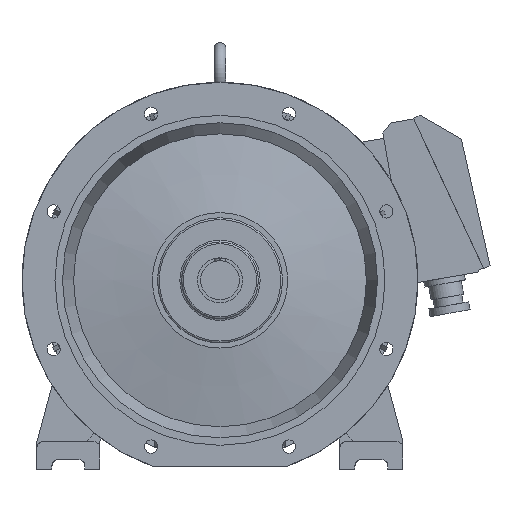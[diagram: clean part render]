
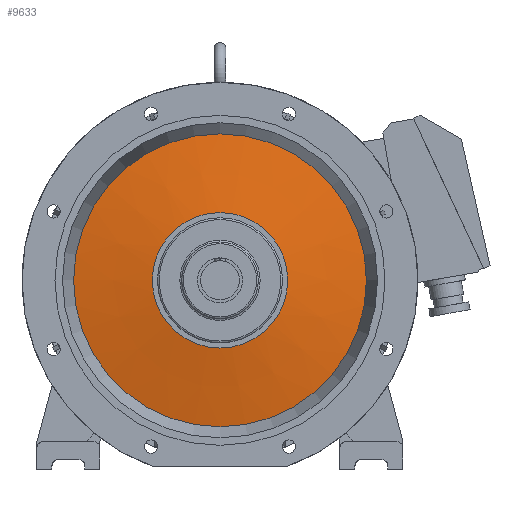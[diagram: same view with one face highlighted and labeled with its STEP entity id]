
A CAD part, front view. The second image highlights one B-rep face of the part: STEP entity #9633.
In plain terms, the highlighted conical face has half-angle 80.426 degrees and reference radius 112.912 mm.
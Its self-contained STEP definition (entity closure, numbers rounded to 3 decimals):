
#36=CONICAL_SURFACE('',#10399,112.912,1.404);
#3198=ORIENTED_EDGE('',*,*,#5817,.T.);
#3199=ORIENTED_EDGE('',*,*,#5816,.F.);
#5816=EDGE_CURVE('',#7117,#7117,#7758,.T.);
#5817=EDGE_CURVE('',#7118,#7118,#7759,.T.);
#7117=VERTEX_POINT('',#17475);
#7118=VERTEX_POINT('',#17478);
#7758=CIRCLE('',#10398,112.912);
#7759=CIRCLE('',#10400,244.069);
#8017=EDGE_LOOP('',(#3198));
#8018=EDGE_LOOP('',(#3199));
#8647=FACE_BOUND('',#8017,.T.);
#8648=FACE_BOUND('',#8018,.T.);
#9633=ADVANCED_FACE('',(#8647,#8648),#36,.T.);
#10398=AXIS2_PLACEMENT_3D('',#17474,#11959,#11960);
#10399=AXIS2_PLACEMENT_3D('',#17476,#11961,#11962);
#10400=AXIS2_PLACEMENT_3D('',#17477,#11963,#11964);
#11959=DIRECTION('',(0.,-1.,0.));
#11960=DIRECTION('',(1.,0.,0.));
#11961=DIRECTION('',(0.,1.,0.));
#11962=DIRECTION('',(-1.,0.,0.));
#11963=DIRECTION('',(0.,-1.,0.));
#11964=DIRECTION('',(1.,0.,0.));
#17474=CARTESIAN_POINT('',(0.,182.516,0.));
#17475=CARTESIAN_POINT('',(112.912,182.516,0.));
#17476=CARTESIAN_POINT('',(0.,182.516,0.));
#17477=CARTESIAN_POINT('',(0.,204.637,0.));
#17478=CARTESIAN_POINT('',(244.069,204.637,0.));
